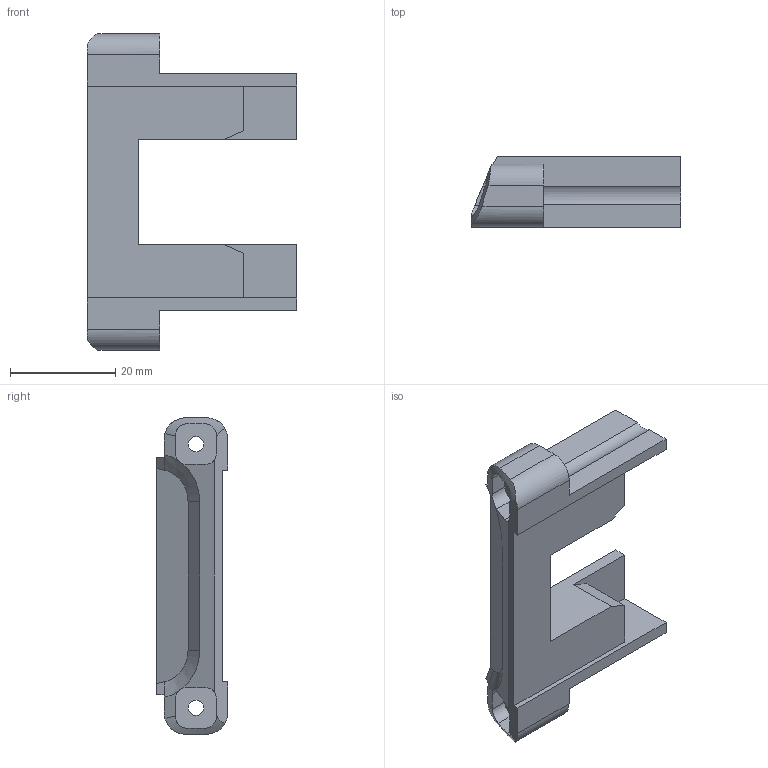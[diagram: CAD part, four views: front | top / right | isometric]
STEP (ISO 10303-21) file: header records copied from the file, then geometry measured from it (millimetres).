
FILE_DESCRIPTION(/* description */ (''),/* implementation_level */ '2;1');
FILE_NAME(/* name */ 'WOMEN_bridge B.stp',/* time_stamp */ '2025-11-21T05:02:39+09:00',/* author */ (''),/* organization */ (''),/* preprocessor_version */ 'ST-DEVELOPER v11',/* originating_system */ 'SIEMENS PLM Software NX 7.5',/* authorisation */ '');
FILE_SCHEMA (('CONFIG_CONTROL_DESIGN'));
Length unit declared in the file: millimetre
Products named in the file (1): gyunCC550rmo
Bounding box: 39.8 x 13.5 x 60 mm (x, y, z)
Volume: 12479.1 mm3; surface area: 6287.2 mm2
Topology: 1 solids, 1 shells, 71 faces, 202 edges, 135 vertices
Faces by surface type: plane 49, cylinder 20, cone 2
Full cylindrical faces by diameter (mm): 2.9 x2, 3 x2, 6 x2
Entity records: 2427 total; most frequent: CARTESIAN_POINT 504, ORIENTED_EDGE 382, DIRECTION 379, EDGE_CURVE 191, VERTEX_POINT 130, AXIS2_PLACEMENT_3D 127, LINE 125, VECTOR 125
